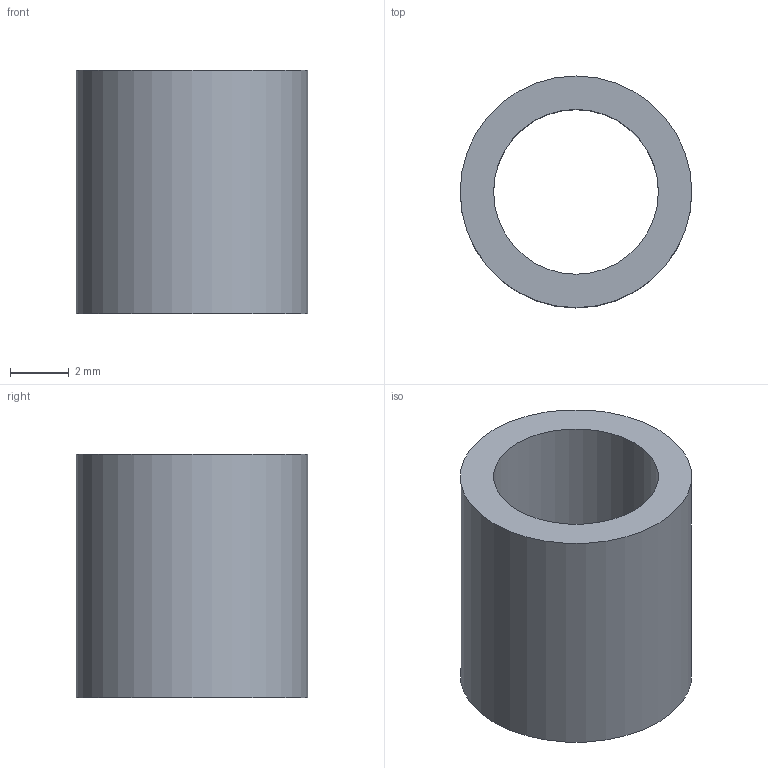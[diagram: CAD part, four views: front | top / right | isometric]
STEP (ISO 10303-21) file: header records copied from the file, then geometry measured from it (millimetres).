
FILE_DESCRIPTION(('Open CASCADE Model'),'2;1');
FILE_NAME('Open CASCADE Shape Model','2026-11-14T12:29:52',('Author'),( 'Open CASCADE'),'Open CASCADE STEP processor 8.0','Open CASCADE 8.0' ,'Unknown');
FILE_SCHEMA(('AUTOMOTIVE_DESIGN { 1 0 10303 214 1 1 1 1 }'));
Length unit declared in the file: millimetre
Products named in the file (1): Open CASCADE STEP translator 8.0 5
Bounding box: 7.9 x 7.9 x 8.3 mm (x, y, z)
Volume: 200.9 mm3; surface area: 401 mm2
Topology: 1 solids, 1 shells, 4 faces, 6 edges, 4 vertices
Faces by surface type: cylinder 2, plane 2
Full cylindrical faces by diameter (mm): 5.62 x1, 7.9 x1
Entity records: 186 total; most frequent: DIRECTION 32, CARTESIAN_POINT 27, ORIENTED_EDGE 12, PCURVE 12, DEFINITIONAL_REPRESENTATION 12, LINE 10, VECTOR 10, AXIS2_PLACEMENT_3D 9
